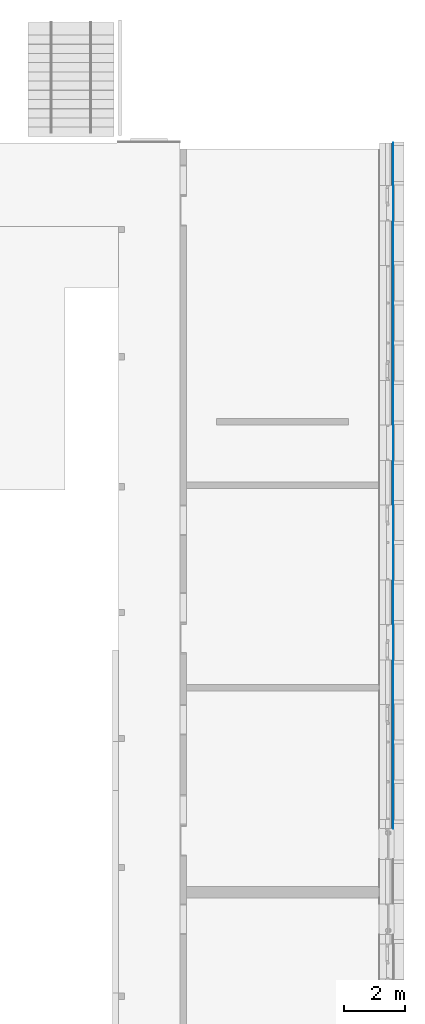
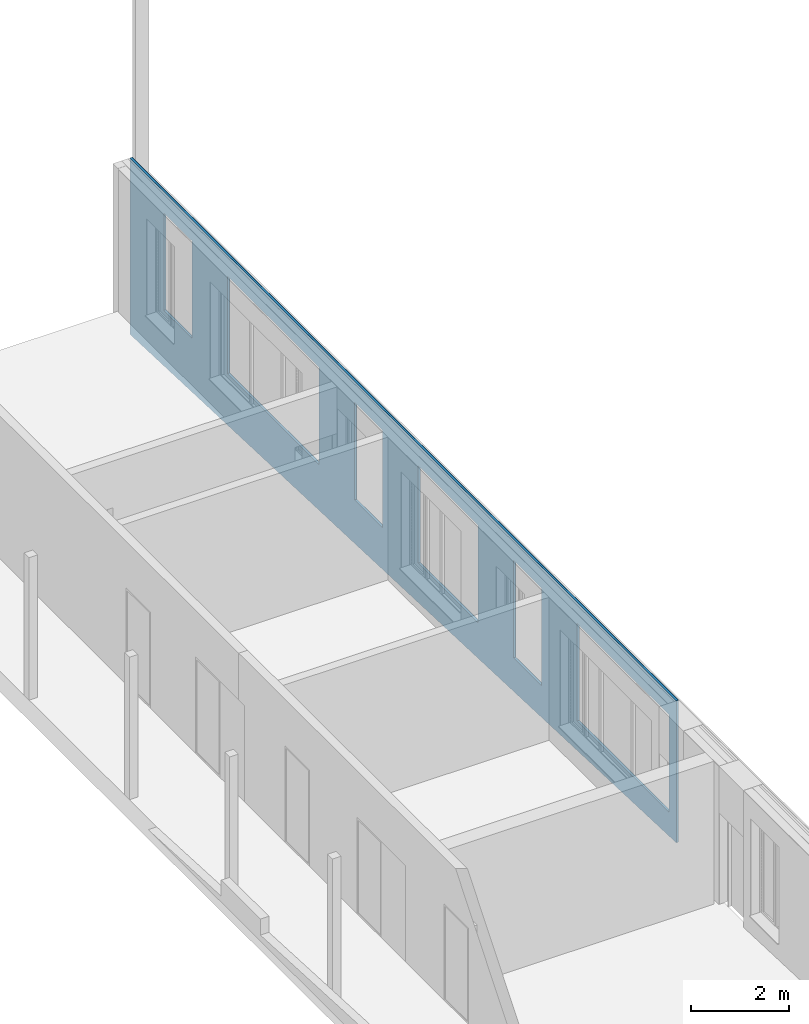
# One storey, part 60 of 65: 2 building element parts, 6 openings, 1 element without a shape of its own.
"""IFC2X3 building model written with IfcOpenShell, lengths in millimetres."""

from ifc_helpers import new_model, entity, si_unit, converted_unit, derived_unit, money_unit, direction, frame, origin_with_axes, origin_2d_with_axis, place, context, subcontext, project, spatial, polyline, rectangle, outline, extrude, boolean, faceted_brep, material, type_object, element, aggregate, save


model = new_model("IFC2X3")

# Units and contexts
model_context = context("Model", 3, precision=0.01, world=origin_with_axes(), true_north=direction((0.0, 1.0)))
body_context = subcontext(model_context, "Body", "Model", "MODEL_VIEW")
ifc_project = project(units=[si_unit("LENGTHUNIT", "METRE", prefix="MILLI"), si_unit("AREAUNIT", "SQUARE_METRE"), si_unit("VOLUMEUNIT", "CUBIC_METRE"), converted_unit("PLANEANGLEUNIT", "DEGREE", entity("IfcPlaneAngleMeasure", 0.0174532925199), si_unit("PLANEANGLEUNIT", "RADIAN"), dimensions=[0, 0, 0, 0, 0, 0, 0]), si_unit("SOLIDANGLEUNIT", "STERADIAN"), money_unit("EUR"), converted_unit("TIMEUNIT", "Year", entity("IfcTimeMeasure", 31556926.0), si_unit("TIMEUNIT", "SECOND"), dimensions=[0, 0, 1, 0, 0, 0, 0]), si_unit("MASSUNIT", "GRAM", prefix="KILO"), si_unit("THERMODYNAMICTEMPERATUREUNIT", "DEGREE_CELSIUS"), si_unit("LUMINOUSINTENSITYUNIT", "LUMEN"), si_unit("ENERGYUNIT", "JOULE", prefix="MEGA"), derived_unit("THERMALCONDUCTANCEUNIT", [(si_unit("POWERUNIT", "WATT"), 1), (si_unit("LENGTHUNIT", "METRE"), -1), (si_unit("THERMODYNAMICTEMPERATUREUNIT", "KELVIN"), -1)]), derived_unit("SPECIFICHEATCAPACITYUNIT", [(si_unit("ENERGYUNIT", "JOULE"), 1), (si_unit("MASSUNIT", "GRAM", prefix="KILO"), -1), (si_unit("THERMODYNAMICTEMPERATUREUNIT", "KELVIN"), -1)]), derived_unit("MASSDENSITYUNIT", [(si_unit("MASSUNIT", "GRAM", prefix="KILO"), 1), (si_unit("VOLUMEUNIT", "CUBIC_METRE"), -1)])], contexts=[model_context])

# Site, building, storey
site_placement = place(None, origin_with_axes())
site = spatial("IfcSite", under=ifc_project, at=site_placement, Name="Puškini 31, Narva", CompositionType="ELEMENT")
building_placement = place(site_placement, origin_with_axes())
building = spatial("IfcBuilding", under=site, at=building_placement, Name="Narva Riigigümnaasium", CompositionType="ELEMENT")
storey_placement = place(building_placement, frame((0.0, 0.0, -1320.0), z_axis=(0.0, 0.0, 1.0), x_axis=(1.0, 0.0, 0.0)))
storey = spatial("IfcBuildingStorey", under=building, at=storey_placement, Name="1.korrus -1.32", CompositionType="ELEMENT", Elevation=-1320.0)

# Wall, openings, building element parts
wall_type = type_object("IfcWallType", Name="G-VS-01 468", PredefinedType="NOTDEFINED")
wall_placement = place(storey_placement, frame((54000.000001, 194900.0, -1980.0), z_axis=(0.0, 0.0, 1.0), x_axis=(0.0, -1.0, 0.0)))
wall = element("IfcWall", 1, at=wall_placement, inside=storey, type_object=wall_type, Name="Välissein")
opening_1_placement = place(wall_placement, frame((16264.8487286, 0.0, 2580.0), z_axis=(0.0, 0.0, 1.0), x_axis=(1.0, 0.0, 0.0)))
element("IfcOpeningElement", 2, at=opening_1_placement, cuts=wall, Name="G-A-04", context=body_context, shape_type="SweptSolid", body=[
    extrude(rectangle(XDim=1150.0, YDim=2430.0, at=origin_2d_with_axis()), frame((0.0, 308.0, 1215.0), z_axis=(0.0, 1.0, 0.0), x_axis=(-1.0, 0.0, 0.0)), (0.0, 0.0, -1.0), 786.0),
    extrude(rectangle(XDim=1150.0, YDim=2430.0, at=origin_2d_with_axis()), frame((0.0, 308.0, 1215.0), z_axis=(0.0, -1.0, 0.0), x_axis=(-1.0, 0.0, 0.0)), (0.0, 0.0, -1.0), 618.0),
])
opening_2_placement = place(wall_placement, frame((9764.84872856, 0.0, 2580.0), z_axis=(0.0, 0.0, 1.0), x_axis=(1.0, 0.0, 0.0)))
element("IfcOpeningElement", 3, at=opening_2_placement, cuts=wall, Name="G-A-40", context=body_context, shape_type="SweptSolid", body=[
    extrude(rectangle(XDim=1150.0, YDim=2430.0, at=origin_2d_with_axis()), frame((0.0, 308.0, 1215.0), z_axis=(0.0, 1.0, 0.0), x_axis=(-1.0, 0.0, 0.0)), (0.0, 0.0, -1.0), 786.0),
    extrude(rectangle(XDim=1150.0, YDim=2430.0, at=origin_2d_with_axis()), frame((0.0, 308.0, 1215.0), z_axis=(0.0, -1.0, 0.0), x_axis=(-1.0, 0.0, 0.0)), (0.0, 0.0, -1.0), 618.0),
])
opening_3_placement = place(wall_placement, frame((13014.8487286, 0.0, 2580.0), z_axis=(0.0, 0.0, 1.0), x_axis=(1.0, 0.0, 0.0)))
element("IfcOpeningElement", 4, at=opening_3_placement, cuts=wall, Name="G-A-14", context=body_context, shape_type="SweptSolid", body=[
    extrude(rectangle(XDim=2450.0, YDim=2430.0, at=origin_2d_with_axis()), frame((0.0, 308.0, 1215.0), z_axis=(0.0, -1.0, 0.0), x_axis=(1.0, 0.0, 0.0)), (0.0, 0.0, 1.0), 786.0),
    extrude(rectangle(XDim=2450.0, YDim=2430.0, at=origin_2d_with_axis()), frame((0.0, 308.0, 1215.0), z_axis=(0.0, 1.0, 0.0), x_axis=(1.0, 0.0, 0.0)), (0.0, 0.0, 1.0), 618.0),
])
opening_4_placement = place(wall_placement, frame((5864.84872856, 0.0, 2580.0), z_axis=(0.0, 0.0, 1.0), x_axis=(1.0, 0.0, 0.0)))
element("IfcOpeningElement", 5, at=opening_4_placement, cuts=wall, Name="G-A-20", context=body_context, shape_type="SweptSolid", body=[
    extrude(rectangle(XDim=3750.0, YDim=2430.0, at=origin_2d_with_axis()), frame((0.0, 308.0, 1215.0), z_axis=(0.0, 1.0, 0.0), x_axis=(-1.0, 0.0, 0.0)), (0.0, 0.0, -1.0), 786.0),
    extrude(rectangle(XDim=3750.0, YDim=2430.0, at=origin_2d_with_axis()), frame((0.0, 308.0, 1215.0), z_axis=(0.0, -1.0, 0.0), x_axis=(-1.0, 0.0, 0.0)), (0.0, 0.0, -1.0), 618.0),
])
opening_5_placement = place(wall_placement, frame((1964.84872856, 0.0, 2580.0), z_axis=(0.0, 0.0, 1.0), x_axis=(1.0, 0.0, 0.0)))
element("IfcOpeningElement", 6, at=opening_5_placement, cuts=wall, Name="G-A-04", context=body_context, shape_type="SweptSolid", body=[
    extrude(rectangle(XDim=1150.0, YDim=2430.0, at=origin_2d_with_axis()), frame((0.0, 308.0, 1215.0), z_axis=(0.0, -1.0, 0.0), x_axis=(1.0, 0.0, 0.0)), (0.0, 0.0, 1.0), 786.0),
    extrude(rectangle(XDim=1150.0, YDim=2430.0, at=origin_2d_with_axis()), frame((0.0, 308.0, 1215.0), z_axis=(0.0, 1.0, 0.0), x_axis=(1.0, 0.0, 0.0)), (0.0, 0.0, 1.0), 618.0),
])
opening_6_placement = place(wall_placement, frame((20164.8487286, 0.0, 2580.0), z_axis=(0.0, 0.0, 1.0), x_axis=(1.0, 0.0, 0.0)))
element("IfcOpeningElement", 7, at=opening_6_placement, cuts=wall, Name="G-A-39", context=body_context, shape_type="SweptSolid", body=[
    extrude(rectangle(XDim=3750.0, YDim=2430.0, at=origin_2d_with_axis()), frame((0.0, 308.0, 1215.0), z_axis=(0.0, -1.0, 0.0), x_axis=(1.0, 0.0, 0.0)), (0.0, 0.0, 1.0), 786.0),
    extrude(rectangle(XDim=3750.0, YDim=2430.0, at=origin_2d_with_axis()), frame((0.0, 308.0, 1215.0), z_axis=(0.0, 1.0, 0.0), x_axis=(1.0, 0.0, 0.0)), (0.0, 0.0, 1.0), 618.0),
])
ifc_material_1 = material(Name="Salto-roovitus")
building_element_part_1_placement = place(wall_placement, origin_with_axes())
building_element_part_1 = element("IfcBuildingElementPart", 8, at=building_element_part_1_placement, material=ifc_material_1, Name="Salto-roovitus", context=body_context, shape_type="CSG", body=[
    boolean("DIFFERENCE", boolean("DIFFERENCE", boolean("DIFFERENCE", boolean("DIFFERENCE", boolean("DIFFERENCE", boolean("DIFFERENCE", boolean("DIFFERENCE", extrude(outline(polyline([(0.0, 400.0), (22339.8487286, 400.0), (22339.8487286, 450.0), (0.0, 450.0), (0.0, 400.0)])), origin_with_axes(), (0.0, 0.0, 1.0), 5539.82248474), faceted_brep([(17850.0000157, -10.0, 5535.0), (22339.8487286, -10.0, 5535.0), (22339.8487286, -10.0, 5539.82248474), (0.0, -10.0, 5539.82248474), (0.0, -10.0, 0.0), (22339.8487286, -10.0, 0.0), (22339.8487286, -10.0, 1997.41576605), (21884.8883511, -10.0, 1980.0), (17850.0000157, -10.0, 1980.0), (8979.66614925, -10.0, 1980.0), (250.0, -10.0, 1980.0), (250.0, -10.0, 5535.0), (8979.66614925, -10.0, 5535.0), (11060.0000373, -10.0, 1980.0), (9179.66614925, -10.0, 1980.0), (9179.66614925, -10.0, 5535.0), (11060.0000373, -10.0, 5535.0), (17650.0000157, -10.0, 1980.0), (11260.0000373, -10.0, 1980.0), (11260.0000373, -10.0, 5535.0), (17650.0000157, -10.0, 5535.0), (13786.6102383, -10.0, 1670.0), (250.0, -10.0, 1151.82204717), (250.0, -10.0, 1670.0), (22339.8487286, 0.0, 5535.0), (17850.0000157, 3.80616427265e-07, 5535.0), (22339.8487286, 0.0, 5539.82248474), (0.0, 0.0, 5539.82248474), (0.0, 0.0, 0.0), (22339.8487286, 0.0, 0.0), (22339.8487286, 0.0, 1997.41576605), (21884.8883511, 1.90873095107e-07, 1980.0), (17850.0000157, 1.8836487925e-06, 1980.0), (8979.66614925, 1.8836487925e-06, 1980.0), (250.0, -5.06154407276e-06, 1980.0), (250.0, -1.48313574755e-05, 5535.0), (8979.66614925, 1.12752474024e-06, 5535.0), (11060.0000373, 1.8836487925e-06, 1980.0), (9179.66614925, 1.8836487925e-06, 1980.0), (9179.66614925, 1.11069198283e-06, 5535.0), (11060.0000373, 9.52354639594e-07, 5535.0), (17650.0000157, 1.8836487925e-06, 1980.0), (11260.0000373, 1.8836487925e-06, 1980.0), (11260.0000373, 9.35514776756e-07, 5535.0), (17650.0000157, 3.97456290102e-07, 5535.0), (13786.6102383, -1.62997082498e-06, 1670.0), (250.0, -2.78556200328e-06, 1151.82204717), (250.0, -4.20961043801e-06, 1670.0)], [[[0, 1, 2, 3, 4, 5, 6, 7, 8], [9, 10, 11, 12], [13, 14, 15, 16], [17, 18, 19, 20], [21, 22, 23]], [[24, 1, 0, 25]], [[1, 24, 26, 2]], [[27, 3, 2, 26]], [[27, 28, 4, 3]], [[5, 4, 28, 29]], [[30, 6, 5, 29]], [[30, 31, 7, 6]], [[31, 32, 8, 7]], [[32, 25, 0, 8]], [[33, 34, 10, 9]], [[34, 35, 11, 10]], [[12, 11, 35, 36]], [[36, 33, 9, 12]], [[37, 38, 14, 13]], [[38, 39, 15, 14]], [[16, 15, 39, 40]], [[40, 37, 13, 16]], [[41, 42, 18, 17]], [[42, 43, 19, 18]], [[20, 19, 43, 44]], [[44, 41, 17, 20]], [[45, 46, 22, 21]], [[46, 47, 23, 22]], [[47, 45, 21, 23]], [[31, 30, 29, 28, 27, 26, 24, 25, 32], [33, 36, 35, 34], [37, 40, 39, 38], [41, 44, 43, 42], [46, 45, 47]]])), faceted_brep([(22339.8487286, 199.999993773, 5535.0), (199.999968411, 199.999993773, 5535.0), (199.999968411, 199.999993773, 5539.82248474), (22339.8487286, 200.0, 5539.82248474), (22339.8487286, 0.0, 5535.0), (199.999968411, 0.0, 5535.0), (199.999968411, 1.86678761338e-06, 5539.82248474), (22339.8487286, 0.0, 5539.82248474)], [[[0, 1, 2, 3]], [[1, 0, 4, 5]], [[6, 2, 1, 5]], [[2, 6, 7, 3]], [[4, 0, 3, 7]], [[4, 7, 6, 5]]])), faceted_brep([(0.0, 3.88389764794e-07, 1142.25211157), (0.0, 200.000002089, 1142.25211157), (0.0, 200.0, 0.0), (0.0, 0.0, 0.0), (22339.8487286, 199.999997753, 1997.41576605), (250.0, -2.78556200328e-06, 1151.82204717), (13786.6102383, -1.62997082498e-06, 1670.0), (21884.8883511, 1.90873095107e-07, 1980.0), (22339.8487286, 0.0, 1997.41576605), (22339.8487286, 200.0, 0.0), (22339.8487286, 0.0, 0.0)], [[[0, 1, 2, 3]], [[4, 1, 0, 5, 6, 7, 8]], [[1, 4, 9, 2]], [[10, 3, 2, 9]], [[5, 0, 3, 10, 8, 7, 6]], [[4, 8, 10, 9]]])), faceted_brep([(0.0, 200.000002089, 1142.25211157), (0.0, 350.0, 1142.25211157), (0.0, 350.0, 0.0), (0.0, 200.0, 0.0), (22339.8487286, 350.0, 1997.41576605), (22339.8487286, 199.999997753, 1997.41576605), (22339.8487286, 350.0, 0.0), (22339.8487286, 200.0, 0.0)], [[[0, 1, 2, 3]], [[4, 1, 0, 5]], [[1, 4, 6, 2]], [[7, 3, 2, 6]], [[5, 0, 3, 7]], [[4, 5, 7, 6]]])), faceted_brep([(0.0, 350.0, 1142.25211157), (0.0, 399.999997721, 1142.25211157), (0.0, 400.0, 0.0), (0.0, 350.0, 0.0), (22339.8487286, 400.0, 1997.41576605), (22339.8487286, 350.0, 1997.41576605), (22339.8487286, 400.0, 0.0), (22339.8487286, 350.0, 0.0)], [[[0, 1, 2, 3]], [[4, 1, 0, 5]], [[1, 4, 6, 2]], [[7, 3, 2, 6]], [[5, 0, 3, 7]], [[4, 5, 7, 6]]])), faceted_brep([(0.0, 399.999997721, 1142.25211157), (0.0, 449.999999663, 1142.25211157), (0.0, 450.0, 0.0), (0.0, 400.0, 0.0), (22339.8487286, 450.0, 1997.41576605), (22339.8487286, 400.0, 1997.41576605), (22339.8487286, 450.0, 0.0), (22339.8487286, 400.0, 0.0)], [[[0, 1, 2, 3]], [[4, 1, 0, 5]], [[1, 4, 6, 2]], [[7, 3, 2, 6]], [[5, 0, 3, 7]], [[4, 5, 7, 6]]])), faceted_brep([(0.0, 449.999999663, 1142.25211157), (0.0, 457.999993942, 1142.25211157), (0.0, 458.0, 0.0), (0.0, 450.0, 0.0), (22339.8487286, 458.0, 1997.41576605), (22339.8487286, 450.0, 1997.41576605), (22339.8487286, 458.0, 0.0), (22339.8487286, 450.0, 0.0)], [[[0, 1, 2, 3]], [[4, 1, 0, 5]], [[1, 4, 6, 2]], [[7, 3, 2, 6]], [[5, 0, 3, 7]], [[4, 5, 7, 6]]])),
])
ifc_material_2 = material(Name="fassaadiplaat")
building_element_part_2_placement = place(wall_placement, origin_with_axes())
building_element_part_2 = element("IfcBuildingElementPart", 9, at=building_element_part_2_placement, material=ifc_material_2, Name="fassaadiplaat", context=body_context, shape_type="CSG", body=[
    boolean("DIFFERENCE", boolean("DIFFERENCE", boolean("DIFFERENCE", boolean("DIFFERENCE", boolean("DIFFERENCE", boolean("DIFFERENCE", boolean("DIFFERENCE", extrude(outline(polyline([(0.0, 450.0), (22339.8487286, 450.0), (22339.8487286, 458.0), (0.0, 458.0), (0.0, 450.0)])), origin_with_axes(), (0.0, 0.0, 1.0), 5539.82248474), faceted_brep([(17850.0000157, -10.0, 5535.0), (22339.8487286, -10.0, 5535.0), (22339.8487286, -10.0, 5539.82248474), (0.0, -10.0, 5539.82248474), (0.0, -10.0, 0.0), (22339.8487286, -10.0, 0.0), (22339.8487286, -10.0, 1997.41576605), (21884.8883511, -10.0, 1980.0), (17850.0000157, -10.0, 1980.0), (8979.66614925, -10.0, 1980.0), (250.0, -10.0, 1980.0), (250.0, -10.0, 5535.0), (8979.66614925, -10.0, 5535.0), (11060.0000373, -10.0, 1980.0), (9179.66614925, -10.0, 1980.0), (9179.66614925, -10.0, 5535.0), (11060.0000373, -10.0, 5535.0), (17650.0000157, -10.0, 1980.0), (11260.0000373, -10.0, 1980.0), (11260.0000373, -10.0, 5535.0), (17650.0000157, -10.0, 5535.0), (13786.6102383, -10.0, 1670.0), (250.0, -10.0, 1151.82204717), (250.0, -10.0, 1670.0), (22339.8487286, 0.0, 5535.0), (17850.0000157, 3.80616427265e-07, 5535.0), (22339.8487286, 0.0, 5539.82248474), (0.0, 0.0, 5539.82248474), (0.0, 0.0, 0.0), (22339.8487286, 0.0, 0.0), (22339.8487286, 0.0, 1997.41576605), (21884.8883511, 1.90873095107e-07, 1980.0), (17850.0000157, 1.8836487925e-06, 1980.0), (8979.66614925, 1.8836487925e-06, 1980.0), (250.0, -5.06154407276e-06, 1980.0), (250.0, -1.48313574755e-05, 5535.0), (8979.66614925, 1.12752474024e-06, 5535.0), (11060.0000373, 1.8836487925e-06, 1980.0), (9179.66614925, 1.8836487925e-06, 1980.0), (9179.66614925, 1.11069198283e-06, 5535.0), (11060.0000373, 9.52354639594e-07, 5535.0), (17650.0000157, 1.8836487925e-06, 1980.0), (11260.0000373, 1.8836487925e-06, 1980.0), (11260.0000373, 9.35514776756e-07, 5535.0), (17650.0000157, 3.97456290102e-07, 5535.0), (13786.6102383, -1.62997082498e-06, 1670.0), (250.0, -2.78556200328e-06, 1151.82204717), (250.0, -4.20961043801e-06, 1670.0)], [[[0, 1, 2, 3, 4, 5, 6, 7, 8], [9, 10, 11, 12], [13, 14, 15, 16], [17, 18, 19, 20], [21, 22, 23]], [[24, 1, 0, 25]], [[1, 24, 26, 2]], [[27, 3, 2, 26]], [[27, 28, 4, 3]], [[5, 4, 28, 29]], [[30, 6, 5, 29]], [[30, 31, 7, 6]], [[31, 32, 8, 7]], [[32, 25, 0, 8]], [[33, 34, 10, 9]], [[34, 35, 11, 10]], [[12, 11, 35, 36]], [[36, 33, 9, 12]], [[37, 38, 14, 13]], [[38, 39, 15, 14]], [[16, 15, 39, 40]], [[40, 37, 13, 16]], [[41, 42, 18, 17]], [[42, 43, 19, 18]], [[20, 19, 43, 44]], [[44, 41, 17, 20]], [[45, 46, 22, 21]], [[46, 47, 23, 22]], [[47, 45, 21, 23]], [[31, 30, 29, 28, 27, 26, 24, 25, 32], [33, 36, 35, 34], [37, 40, 39, 38], [41, 44, 43, 42], [46, 45, 47]]])), faceted_brep([(22339.8487286, 199.999993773, 5535.0), (199.999968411, 199.999993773, 5535.0), (199.999968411, 199.999993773, 5539.82248474), (22339.8487286, 200.0, 5539.82248474), (22339.8487286, 0.0, 5535.0), (199.999968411, 0.0, 5535.0), (199.999968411, 1.86678761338e-06, 5539.82248474), (22339.8487286, 0.0, 5539.82248474)], [[[0, 1, 2, 3]], [[1, 0, 4, 5]], [[6, 2, 1, 5]], [[2, 6, 7, 3]], [[4, 0, 3, 7]], [[4, 7, 6, 5]]])), faceted_brep([(0.0, 3.88389764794e-07, 1142.25211157), (0.0, 200.000002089, 1142.25211157), (0.0, 200.0, 0.0), (0.0, 0.0, 0.0), (22339.8487286, 199.999997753, 1997.41576605), (250.0, -2.78556200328e-06, 1151.82204717), (13786.6102383, -1.62997082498e-06, 1670.0), (21884.8883511, 1.90873095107e-07, 1980.0), (22339.8487286, 0.0, 1997.41576605), (22339.8487286, 200.0, 0.0), (22339.8487286, 0.0, 0.0)], [[[0, 1, 2, 3]], [[4, 1, 0, 5, 6, 7, 8]], [[1, 4, 9, 2]], [[10, 3, 2, 9]], [[5, 0, 3, 10, 8, 7, 6]], [[4, 8, 10, 9]]])), faceted_brep([(0.0, 200.000002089, 1142.25211157), (0.0, 350.0, 1142.25211157), (0.0, 350.0, 0.0), (0.0, 200.0, 0.0), (22339.8487286, 350.0, 1997.41576605), (22339.8487286, 199.999997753, 1997.41576605), (22339.8487286, 350.0, 0.0), (22339.8487286, 200.0, 0.0)], [[[0, 1, 2, 3]], [[4, 1, 0, 5]], [[1, 4, 6, 2]], [[7, 3, 2, 6]], [[5, 0, 3, 7]], [[4, 5, 7, 6]]])), faceted_brep([(0.0, 350.0, 1142.25211157), (0.0, 399.999997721, 1142.25211157), (0.0, 400.0, 0.0), (0.0, 350.0, 0.0), (22339.8487286, 400.0, 1997.41576605), (22339.8487286, 350.0, 1997.41576605), (22339.8487286, 400.0, 0.0), (22339.8487286, 350.0, 0.0)], [[[0, 1, 2, 3]], [[4, 1, 0, 5]], [[1, 4, 6, 2]], [[7, 3, 2, 6]], [[5, 0, 3, 7]], [[4, 5, 7, 6]]])), faceted_brep([(0.0, 399.999997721, 1142.25211157), (0.0, 449.999999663, 1142.25211157), (0.0, 450.0, 0.0), (0.0, 400.0, 0.0), (22339.8487286, 450.0, 1997.41576605), (22339.8487286, 400.0, 1997.41576605), (22339.8487286, 450.0, 0.0), (22339.8487286, 400.0, 0.0)], [[[0, 1, 2, 3]], [[4, 1, 0, 5]], [[1, 4, 6, 2]], [[7, 3, 2, 6]], [[5, 0, 3, 7]], [[4, 5, 7, 6]]])), faceted_brep([(0.0, 449.999999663, 1142.25211157), (0.0, 457.999993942, 1142.25211157), (0.0, 458.0, 0.0), (0.0, 450.0, 0.0), (22339.8487286, 458.0, 1997.41576605), (22339.8487286, 450.0, 1997.41576605), (22339.8487286, 458.0, 0.0), (22339.8487286, 450.0, 0.0)], [[[0, 1, 2, 3]], [[4, 1, 0, 5]], [[1, 4, 6, 2]], [[7, 3, 2, 6]], [[5, 0, 3, 7]], [[4, 5, 7, 6]]])),
])
aggregate(wall, [building_element_part_1, building_element_part_2])

save(model, "model.ifc")
